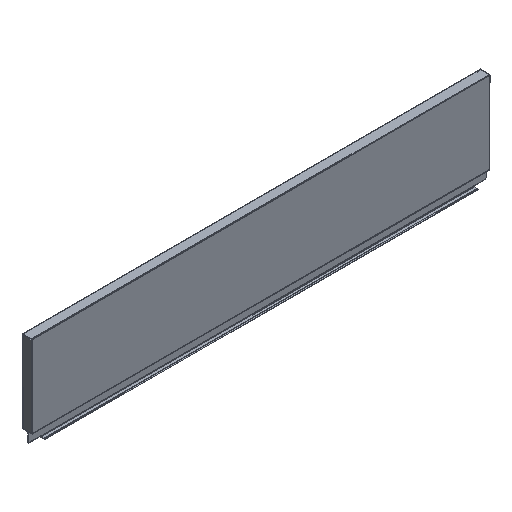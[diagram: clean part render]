
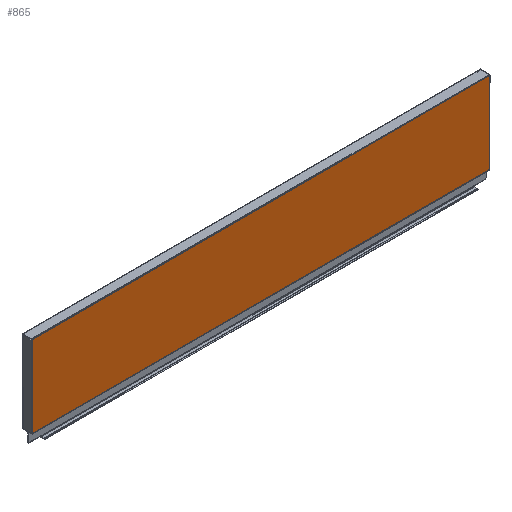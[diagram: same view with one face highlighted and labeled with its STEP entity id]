
A CAD part, isometric view. The second image highlights one B-rep face of the part: STEP entity #865.
In plain terms, the highlighted planar face has unit normal (0, -1, 0).
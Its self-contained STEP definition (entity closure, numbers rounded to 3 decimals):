
#49 = VERTEX_POINT ( 'NONE', #422 ) ;
#73 = VERTEX_POINT ( 'NONE', #417 ) ;
#281 = CARTESIAN_POINT ( 'NONE',  ( 379., -6., 17.5 ) ) ;
#293 = CARTESIAN_POINT ( 'NONE',  ( -379., -6., 151.5 ) ) ;
#301 = CARTESIAN_POINT ( 'NONE',  ( 379., -6., 151.5 ) ) ;
#312 = CARTESIAN_POINT ( 'NONE',  ( 378.5, -6., 17.5 ) ) ;
#315 = CARTESIAN_POINT ( 'NONE',  ( -379., -6., 17.5 ) ) ;
#341 = CARTESIAN_POINT ( 'NONE',  ( -378.5, -6., 17. ) ) ;
#356 = CARTESIAN_POINT ( 'NONE',  ( 379., -6., 152. ) ) ;
#357 = CARTESIAN_POINT ( 'NONE',  ( -379., -6., 152. ) ) ;
#417 = CARTESIAN_POINT ( 'NONE',  ( -378.5, -6., 17.5 ) ) ;
#422 = CARTESIAN_POINT ( 'NONE',  ( 378.5, -6., 17. ) ) ;
#441 = VERTEX_POINT ( 'NONE', #357 ) ;
#442 = VERTEX_POINT ( 'NONE', #356 ) ;
#457 = VERTEX_POINT ( 'NONE', #341 ) ;
#502 = VERTEX_POINT ( 'NONE', #315 ) ;
#505 = VERTEX_POINT ( 'NONE', #312 ) ;
#515 = VERTEX_POINT ( 'NONE', #301 ) ;
#521 = VERTEX_POINT ( 'NONE', #293 ) ;
#529 = VERTEX_POINT ( 'NONE', #281 ) ;
#717 = EDGE_CURVE ( 'NONE', #441, #521, #2313, .T. ) ;
#718 = EDGE_CURVE ( 'NONE', #441, #442, #2315, .T. ) ;
#719 = EDGE_CURVE ( 'NONE', #442, #515, #2317, .T. ) ;
#720 = EDGE_CURVE ( 'NONE', #515, #529, #2319, .T. ) ;
#721 = EDGE_CURVE ( 'NONE', #505, #529, #2321, .T. ) ;
#722 = EDGE_CURVE ( 'NONE', #49, #505, #2323, .T. ) ;
#723 = EDGE_CURVE ( 'NONE', #457, #49, #2325, .T. ) ;
#724 = EDGE_CURVE ( 'NONE', #73, #457, #2327, .T. ) ;
#726 = EDGE_CURVE ( 'NONE', #521, #502, #2331, .T. ) ;
#729 = EDGE_CURVE ( 'NONE', #502, #73, #2334, .T. ) ;
#780 = AXIS2_PLACEMENT_3D ( 'NONE', #1446, #1444, #1442 ) ;
#865 = ADVANCED_FACE ( 'NONE', ( #2347 ), #1447, .T. ) ;
#1082 = EDGE_LOOP ( 'NONE', ( #1975, #1974, #1973, #1972, #1971, #1970, #1969, #1968, #1967, #1966 ) ) ;
#1442 = DIRECTION ( 'NONE',  ( 1., 0., 0. ) ) ;
#1444 = DIRECTION ( 'NONE',  ( 0., -1., 0. ) ) ;
#1446 = CARTESIAN_POINT ( 'NONE',  ( -380., -6., 17. ) ) ;
#1447 = PLANE ( 'NONE',  #780 ) ;
#1449 = CARTESIAN_POINT ( 'NONE',  ( 378.5, -6., 17.5 ) ) ;
#1452 = DIRECTION ( 'NONE',  ( 0., 0., -1. ) ) ;
#1455 = CARTESIAN_POINT ( 'NONE',  ( 379., -6., 170.385 ) ) ;
#1459 = DIRECTION ( 'NONE',  ( 0., 0., -1. ) ) ;
#1460 = DIRECTION ( 'NONE',  ( 1., 0., 0. ) ) ;
#1461 = CARTESIAN_POINT ( 'NONE',  ( -380., -6., 17.5 ) ) ;
#1462 = CARTESIAN_POINT ( 'NONE',  ( 379., -6., 170.385 ) ) ;
#1466 = DIRECTION ( 'NONE',  ( 1., 0., 0. ) ) ;
#1470 = CARTESIAN_POINT ( 'NONE',  ( -380., -6., 152. ) ) ;
#1471 = DIRECTION ( 'NONE',  ( 0., 0., -1. ) ) ;
#1472 = CARTESIAN_POINT ( 'NONE',  ( -379., -6., 170.385 ) ) ;
#1473 = DIRECTION ( 'NONE',  ( 0., 0., -1. ) ) ;
#1476 = CARTESIAN_POINT ( 'NONE',  ( -379., -6., 170.385 ) ) ;
#1477 = DIRECTION ( 'NONE',  ( 0., 0., -1. ) ) ;
#1478 = CARTESIAN_POINT ( 'NONE',  ( -378.5, -6., 17.5 ) ) ;
#1480 = DIRECTION ( 'NONE',  ( 1., 0., 0. ) ) ;
#1481 = CARTESIAN_POINT ( 'NONE',  ( -380., -6., 17. ) ) ;
#1482 = DIRECTION ( 'NONE',  ( 0., 0., 1. ) ) ;
#1484 = CARTESIAN_POINT ( 'NONE',  ( 378.5, -6., 15.3 ) ) ;
#1485 = DIRECTION ( 'NONE',  ( 1., 0., 0. ) ) ;
#1966 = ORIENTED_EDGE ( 'NONE', *, *, #717, .T. ) ;
#1967 = ORIENTED_EDGE ( 'NONE', *, *, #718, .F. ) ;
#1968 = ORIENTED_EDGE ( 'NONE', *, *, #719, .F. ) ;
#1969 = ORIENTED_EDGE ( 'NONE', *, *, #720, .F. ) ;
#1970 = ORIENTED_EDGE ( 'NONE', *, *, #721, .T. ) ;
#1971 = ORIENTED_EDGE ( 'NONE', *, *, #722, .T. ) ;
#1972 = ORIENTED_EDGE ( 'NONE', *, *, #723, .T. ) ;
#1973 = ORIENTED_EDGE ( 'NONE', *, *, #724, .T. ) ;
#1974 = ORIENTED_EDGE ( 'NONE', *, *, #729, .T. ) ;
#1975 = ORIENTED_EDGE ( 'NONE', *, *, #726, .T. ) ;
#2313 = LINE ( 'NONE', #1476, #2314 ) ;
#2314 = VECTOR ( 'NONE', #1473, 1000. ) ;
#2315 = LINE ( 'NONE', #1470, #2316 ) ;
#2316 = VECTOR ( 'NONE', #1466, 1000. ) ;
#2317 = LINE ( 'NONE', #1462, #2318 ) ;
#2318 = VECTOR ( 'NONE', #1459, 1000. ) ;
#2319 = LINE ( 'NONE', #1455, #2320 ) ;
#2320 = VECTOR ( 'NONE', #1452, 1000. ) ;
#2321 = LINE ( 'NONE', #1449, #2322 ) ;
#2322 = VECTOR ( 'NONE', #1485, 1000. ) ;
#2323 = LINE ( 'NONE', #1484, #2324 ) ;
#2324 = VECTOR ( 'NONE', #1482, 1000. ) ;
#2325 = LINE ( 'NONE', #1481, #2326 ) ;
#2326 = VECTOR ( 'NONE', #1480, 1000. ) ;
#2327 = LINE ( 'NONE', #1478, #2328 ) ;
#2328 = VECTOR ( 'NONE', #1477, 1000. ) ;
#2331 = LINE ( 'NONE', #1472, #2332 ) ;
#2332 = VECTOR ( 'NONE', #1471, 1000. ) ;
#2334 = LINE ( 'NONE', #1461, #2336 ) ;
#2336 = VECTOR ( 'NONE', #1460, 1000. ) ;
#2347 = FACE_OUTER_BOUND ( 'NONE', #1082, .T. ) ;
